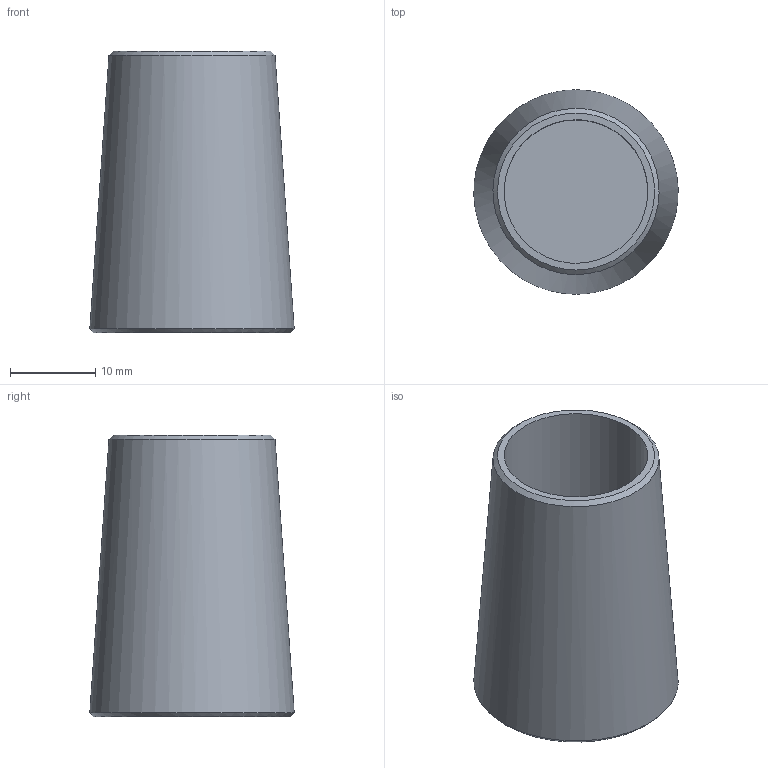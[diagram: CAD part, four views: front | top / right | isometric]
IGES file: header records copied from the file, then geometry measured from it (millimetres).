
Global section: file name: 520-016-KMU; native system: Autodesk Inventor 2016; preprocessor: unknown; author: BAYR; date: 20200618.122322; units: millimetre
Bounding box: 23.92 x 23.93 x 33 mm (x, y, z)
Volume: 6685.9 mm3; surface area: 4281.8 mm2
Topology: 1 solids, 1 shells, 7 faces, 14 edges, 10 vertices
Faces by surface type: bspline 7
